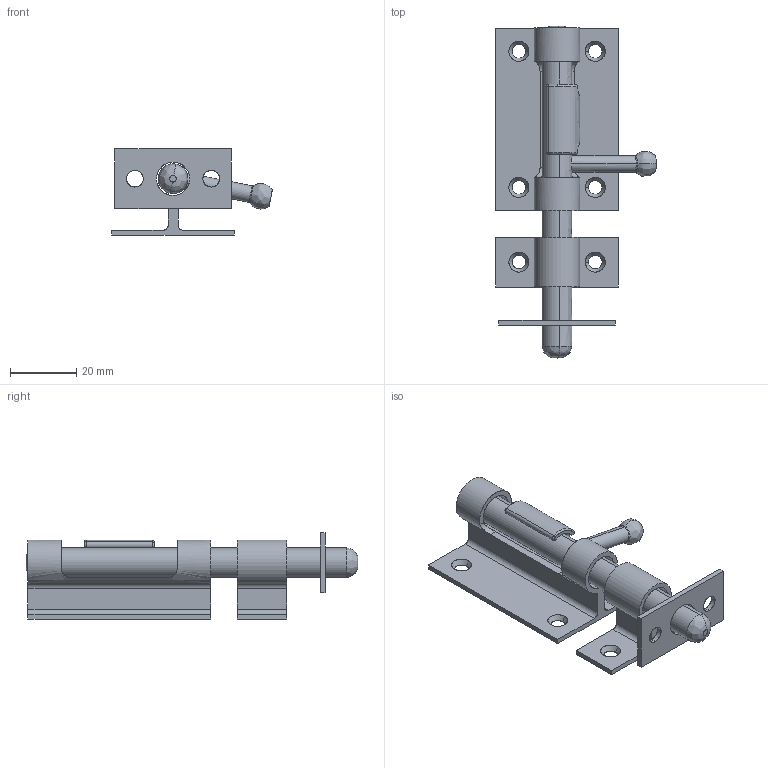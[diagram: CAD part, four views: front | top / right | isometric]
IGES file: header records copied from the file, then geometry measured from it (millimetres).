
Start section: SolidWorks IGES FILE using analytic representation for surfaces
Global section: file name: \\Ls-wvld1d\share\シブタニ\3D設計\ラッチ錠・キャッチ\DL-144S-1\DL-144S-1.IGS; native system: SolidWorks 2003 by SolidWorks Corporation; preprocessor: Version 5.3; author: user; date: 130731.131600; units: millimetre
Bounding box: 48.41 x 100 x 26 mm (x, y, z)
Surface area: 15401 mm2 (no closed solid volume)
Topology: 0 solids, 0 shells, 98 faces, 1909 edges, 1906 vertices
Faces by surface type: bspline 52, revolution 46
